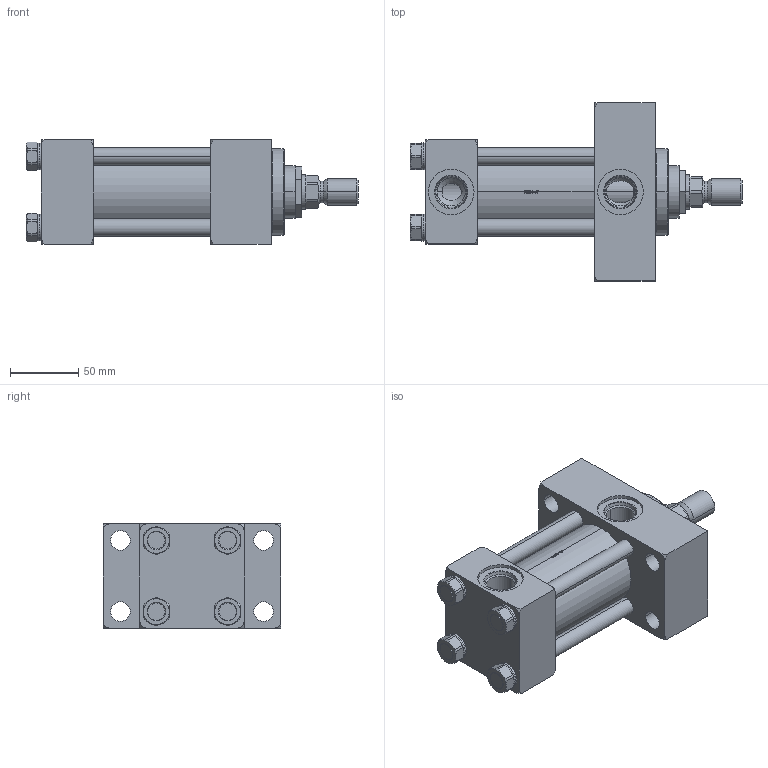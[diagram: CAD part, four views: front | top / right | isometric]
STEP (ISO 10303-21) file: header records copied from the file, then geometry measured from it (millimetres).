
FILE_DESCRIPTION (( 'STEP AP214' ), '1' );
FILE_NAME ('2.00JJ2HHNAT114A2.000.step', '2026-03-26T21:19:49', ( '' ), ( '' ), 'SwSTEP 2.0', 'SolidWorks 2023', '' );
FILE_SCHEMA (( 'AUTOMOTIVE_DESIGN' ));
Length unit declared in the file: inch
Products named in the file (1): 2.00JJ2HHNAT114A2.000
Bounding box: 242.89 x 130.18 x 76.2 mm (x, y, z)
Volume: 860154.4 mm3; surface area: 205257.3 mm2
Topology: 40 solids, 40 shells, 1591 faces, 4131 edges, 2631 vertices
Faces by surface type: plane 811, cylinder 512, cone 230, bspline 30, torus 8
Entity records: 73088 total; most frequent: CARTESIAN_POINT 13766, ORIENTED_EDGE 8182, DIRECTION 7853, EDGE_CURVE 4091, AXIS2_PLACEMENT_3D 3026, VERTEX_POINT 2631, LINE 1801, VECTOR 1801
